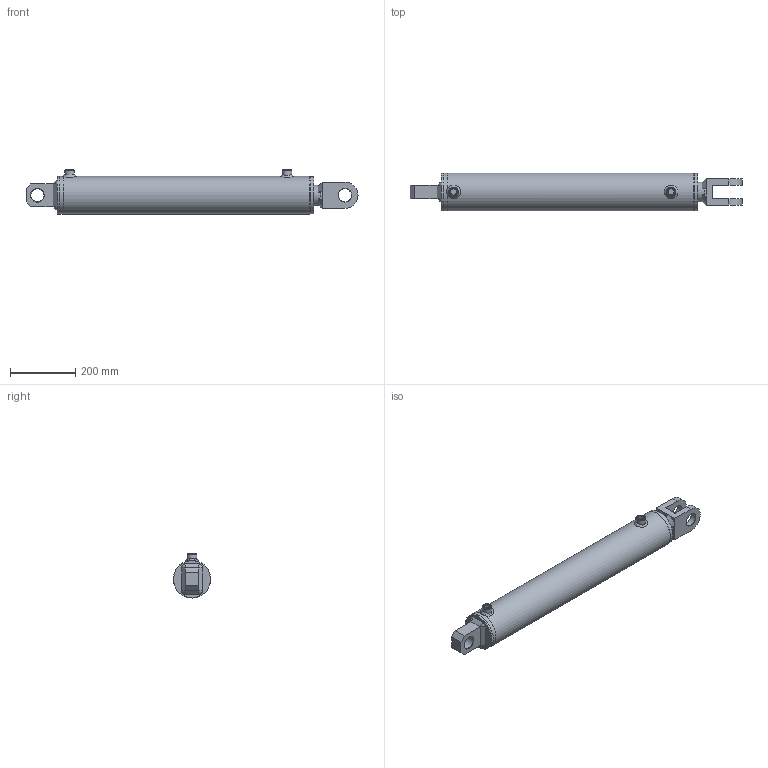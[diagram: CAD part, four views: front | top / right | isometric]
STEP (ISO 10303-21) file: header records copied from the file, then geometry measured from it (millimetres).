
FILE_DESCRIPTION( ( 'Unknown' ), '1' );
FILE_NAME( 'E:/LIBRERIA_3d/CILINDRI/HM5/HM56600600.stp', 'Unknown', ( 'Unknown' ), ( 'Unknown' ), 'PSStep 17.0.49', 'Unknown', ' ' );
FILE_SCHEMA( ( 'AUTOMOTIVE_DESIGN { 1 0 10303 214 1 1 1 1 }' ) );
Length unit declared in the file: millimetre
Products named in the file (35): CT00100033; CG11510060; STL6700600-oa7; Saldatura d'angolo 1-oa5; FTM6700600-oa6; CBSC220800; HM06600600; CF00100115; Saldatura con preparazione 1-oa3; Saldatura d'angolo 1-oa4; CBS0800000; CDA0003320; APG0800000; SBL6060600; Assem1; CSCS004010; CFS0000040; COF4000000; Saldatura d'angolo 1-oa0; Saldatura con preparazione 1-oa1; Saldatura d'angolo 2-oa2
Assembly tree (21 placements, depth 4):
  Saldatura d'angolo 1-oa5
  Saldatura d'angolo 1-oa5
  Saldatura d'angolo 1-oa4
  Saldatura d'angolo 1-oa4
  Assem1
    CSCS004010
    CFS0000040
    COF4000000
    Saldatura con preparazione 1-oa1
    Saldatura con preparazione 1-oa1
    HM06600600
      CF00100115
      Saldatura con preparazione 1-oa3
      Saldatura con preparazione 1-oa3
      CBS0800000
      CDA0003320
      APG0800000  x2
      SBL6060600
      CT00100033
        CT00100033
      CG11510060
        CG11510060
      STL6700600-oa7
        FTM6700600-oa6
        CBSC220800
Bounding box: 1015 x 115 x 135 mm (x, y, z)
Volume: 5499344.1 mm3; surface area: 962591.4 mm2
Topology: 31 solids, 31 shells, 317 faces, 660 edges, 408 vertices
Faces by surface type: plane 116, cylinder 77, cone 54, torus 36, bspline 34
Full cylindrical faces by diameter (mm): 4.25 x3, 8 x2, 12 x1, 18.631 x2, 19.5 x2, 20.95 x2, 26 x2, 30 x2, 32.4 x1, 33 x5, 39.2 x1, 40.25 x3, 50 x1, 60 x7, 63 x3, 68.6 x1, 72 x1, 75 x1, 91.5 x1, 93.14 x2, 98.05 x2, 99.9 x1, 100 x1, 100.3 x1, 100.5 x1, 100.6 x1, 101 x1, 102 x3, 102.835 x1, 105 x1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
Entity records: 13124 total; most frequent: CARTESIAN_POINT 4684, DIRECTION 1226, ORIENTED_EDGE 900, AXIS2_PLACEMENT_3D 542, EDGE_LOOP 503, EDGE_CURVE 450, FACE_OUTER_BOUND 410, VERTEX_POINT 356
